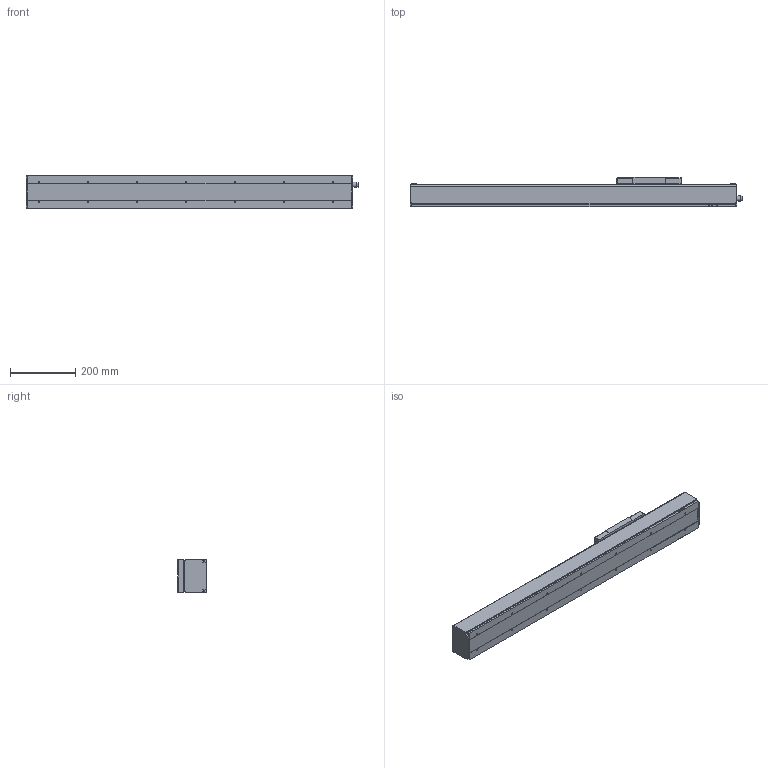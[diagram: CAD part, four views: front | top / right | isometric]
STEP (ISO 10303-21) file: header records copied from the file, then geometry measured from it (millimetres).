
FILE_DESCRIPTION(/* description */ (''),/* implementation_level */ '2;1');
FILE_NAME(/* name */ 'D:\混合母檔20191031\混和母檔\混和母檔\bin\Debug\Download\3D\KS100-10C-600AFI\KS100-10C-600AFI.stp',/* time_stamp */ '2019-11-04T14:48:15+08:00',/* author */ ('user'),/* organization */ (''),/* preprocessor_version */ 'ST-DEVELOPER v16.13',/* originating_system */ 'Autodesk Inventor 2018',/* authorisation */ '');
FILE_SCHEMA (('CONFIG_CONTROL_DESIGN','AUTOMOTIVE_DESIGN { 1 0 10303 214 3 1 1 }'));
Length unit declared in the file: millimetre
Products named in the file (3): KS100-10C-600AFI; KS100-FI; KS100-SL
Assembly tree (2 placements, depth 2):
  KS100-10C-600AFI
    KS100-FI
    KS100-SL
Bounding box: 1015.5 x 89 x 102.4 mm (x, y, z)
Volume: 2404718.9 mm3; surface area: 774353.1 mm2
Topology: 3 solids, 7 shells, 654 faces, 1804 edges, 1188 vertices
Faces by surface type: plane 345, bspline 136, cylinder 78, cone 75, torus 16, sphere 4
Full cylindrical faces by diameter (mm): 2.459 x4, 3.242 x4, 3.571 x8, 4 x4, 4.134 x14, 4.3 x4, 6 x7, 8 x4, 8.4 x4, 14 x1, 15.538 x1, 28 x1, 30 x1
Entity records: 24724 total; most frequent: CARTESIAN_POINT 9354, ORIENTED_EDGE 3316, DIRECTION 2691, EDGE_CURVE 1658, VERTEX_POINT 1142, LINE 1059, VECTOR 1059, EDGE_LOOP 826
